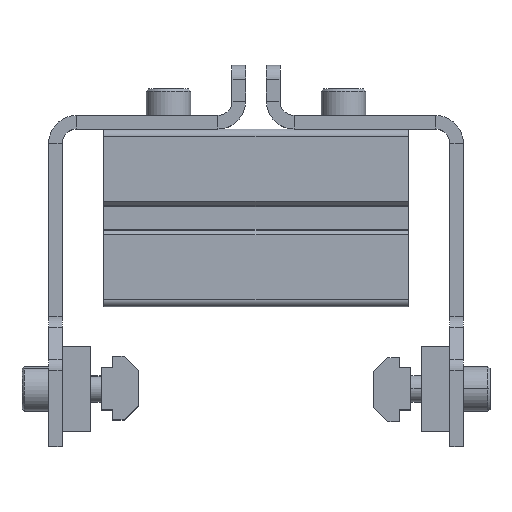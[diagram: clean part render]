
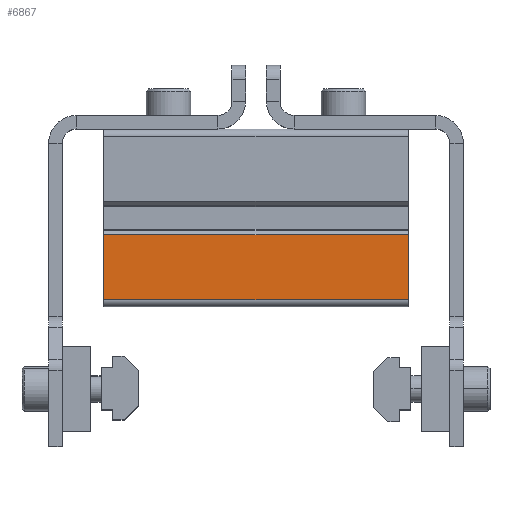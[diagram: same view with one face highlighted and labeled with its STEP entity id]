
A CAD part, top view. The second image highlights one B-rep face of the part: STEP entity #6867.
In plain terms, the highlighted planar face has unit normal (0, 0, 1) as drawn and (0, 1, 0) by its records, which use the part's own axes.
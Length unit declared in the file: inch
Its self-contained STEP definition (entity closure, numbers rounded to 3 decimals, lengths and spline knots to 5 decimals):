
#679 = LINE ( 'NONE', #7463, #4582 ) ;
#764 = FACE_OUTER_BOUND ( 'NONE', #1925, .T. ) ;
#889 = VERTEX_POINT ( 'NONE', #3692 ) ;
#1038 = CARTESIAN_POINT ( 'NONE',  ( 0.7875, 0.441, 1.35 ) ) ;
#1787 = CARTESIAN_POINT ( 'NONE',  ( 0.725, 0.441, 75. ) ) ;
#1925 = EDGE_LOOP ( 'NONE', ( #4693, #2065, #4165, #7474 ) ) ;
#2065 = ORIENTED_EDGE ( 'NONE', *, *, #5487, .F. ) ;
#2291 = PLANE ( 'NONE',  #4465 ) ;
#2366 = LINE ( 'NONE', #1038, #4759 ) ;
#2416 = EDGE_CURVE ( 'NONE', #889, #6433, #2366, .T. ) ;
#2972 = LINE ( 'NONE', #7608, #8004 ) ;
#3160 = DIRECTION ( 'NONE',  ( 0., 0., 1. ) ) ;
#3509 = DIRECTION ( 'NONE',  ( 0., 0., -1. ) ) ;
#3692 = CARTESIAN_POINT ( 'NONE',  ( 0.725, 0.441, 1.35 ) ) ;
#4094 = CARTESIAN_POINT ( 'NONE',  ( -0.7875, 0.441, 75. ) ) ;
#4165 = ORIENTED_EDGE ( 'NONE', *, *, #6469, .T. ) ;
#4214 = DIRECTION ( 'NONE',  ( -1., 0., 0. ) ) ;
#4465 = AXIS2_PLACEMENT_3D ( 'NONE', #4094, #5458, #3509 ) ;
#4582 = VECTOR ( 'NONE', #5594, 39.37008 ) ;
#4693 = ORIENTED_EDGE ( 'NONE', *, *, #7729, .T. ) ;
#4759 = VECTOR ( 'NONE', #4214, 39.37008 ) ;
#4969 = VERTEX_POINT ( 'NONE', #7613 ) ;
#5458 = DIRECTION ( 'NONE',  ( 0., -1., 0. ) ) ;
#5487 = EDGE_CURVE ( 'NONE', #4969, #6362, #679, .T. ) ;
#5594 = DIRECTION ( 'NONE',  ( 1., 0., 0. ) ) ;
#6152 = CARTESIAN_POINT ( 'NONE',  ( 0.725, 0.441, -1.35 ) ) ;
#6362 = VERTEX_POINT ( 'NONE', #6152 ) ;
#6382 = VECTOR ( 'NONE', #6897, 39.37008 ) ;
#6401 = CARTESIAN_POINT ( 'NONE',  ( 0.15033, 0.441, 1.35 ) ) ;
#6433 = VERTEX_POINT ( 'NONE', #6401 ) ;
#6469 = EDGE_CURVE ( 'NONE', #4969, #6433, #2972, .T. ) ;
#6867 = ADVANCED_FACE ( 'NONE', ( #764 ), #2291, .F. ) ;
#6897 = DIRECTION ( 'NONE',  ( 0., 0., -1. ) ) ;
#7463 = CARTESIAN_POINT ( 'NONE',  ( 0.7875, 0.441, -1.35 ) ) ;
#7474 = ORIENTED_EDGE ( 'NONE', *, *, #2416, .F. ) ;
#7608 = CARTESIAN_POINT ( 'NONE',  ( 0.15033, 0.441, -75. ) ) ;
#7613 = CARTESIAN_POINT ( 'NONE',  ( 0.15033, 0.441, -1.35 ) ) ;
#7729 = EDGE_CURVE ( 'NONE', #889, #6362, #8075, .T. ) ;
#8004 = VECTOR ( 'NONE', #3160, 39.37008 ) ;
#8075 = LINE ( 'NONE', #1787, #6382 ) ;
